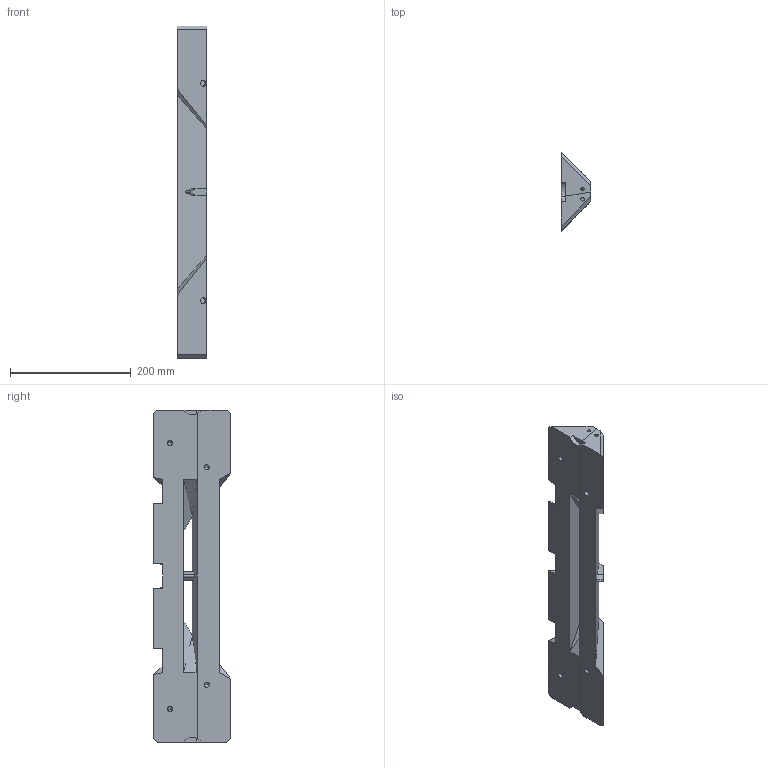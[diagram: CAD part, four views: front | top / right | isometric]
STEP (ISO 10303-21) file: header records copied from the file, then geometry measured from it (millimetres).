
FILE_DESCRIPTION((''),'2;1');
FILE_NAME('MG303631_KON_3X_TREAD_200_G0_ASM','2021-07-28T18:19:03',('basilro001'),(''),'CREO PARAMETRIC BY PTC INC, 2020342','CREO PARAMETRIC BY PTC INC, 2020342','');
FILE_SCHEMA(('CONFIG_CONTROL_DESIGN'));
Length unit declared in the file: millimetre
Products named in the file (5): KON_3PLEX_TREAD_X1_LOWER_200; KON_3PLEX_TREAD_X1_UPPER_200; VITI_M10X45_DIN912; SPINA_10_22; MG303631_KON_3X_TREAD_200_G0_ASM
Assembly tree (6 placements, depth 2):
  MG303631_KON_3X_TREAD_200_G0_ASM
    KON_3PLEX_TREAD_X1_LOWER_200
    KON_3PLEX_TREAD_X1_UPPER_200
    VITI_M10X45_DIN912  x2
    SPINA_10_22  x2
Bounding box: 48.2 x 129 x 550 mm (x, y, z)
Volume: 1616893.8 mm3; surface area: 227403.1 mm2
Topology: 6 solids, 6 shells, 193 faces, 471 edges, 290 vertices
Faces by surface type: plane 92, cylinder 66, cone 28, torus 4, bspline 3
Entity records: 5124 total; most frequent: CARTESIAN_POINT 1086, DIRECTION 813, ORIENTED_EDGE 798, EDGE_CURVE 399, AXIS2_PLACEMENT_3D 273, VECTOR 267, LINE 267, VERTEX_POINT 256
